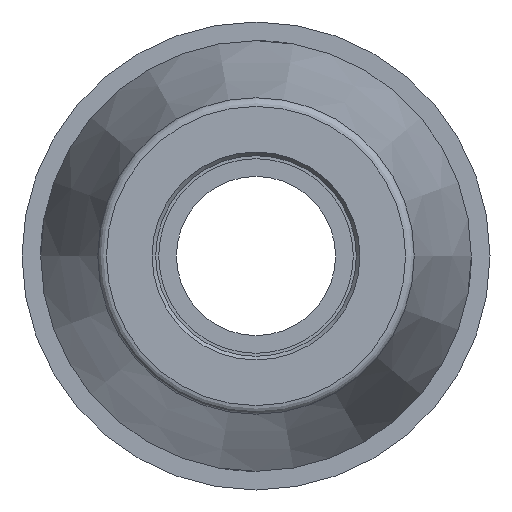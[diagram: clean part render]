
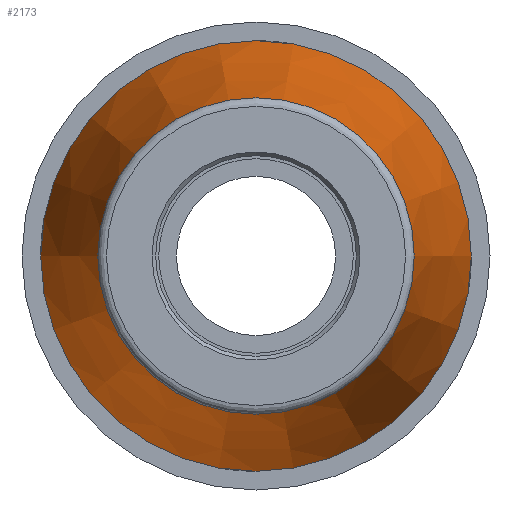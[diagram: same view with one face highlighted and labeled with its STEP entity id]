
A CAD part, left-side view. The second image highlights one B-rep face of the part: STEP entity #2173.
In plain terms, the highlighted conical face has half-angle 13 degrees and reference radius 26.227 mm.
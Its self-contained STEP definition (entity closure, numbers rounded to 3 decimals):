
#390=CONICAL_SURFACE('',#2402,26.227,13.);
#438=FACE_BOUND('',#687,.T.);
#550=FACE_OUTER_BOUND('',#686,.T.);
#686=EDGE_LOOP('',(#1808));
#687=EDGE_LOOP('',(#1809));
#828=CIRCLE('',#2401,22.319);
#829=CIRCLE('',#2403,30.36);
#1019=VERTEX_POINT('',#4301);
#1020=VERTEX_POINT('',#4304);
#1300=EDGE_CURVE('',#1019,#1019,#828,.T.);
#1301=EDGE_CURVE('',#1020,#1020,#829,.T.);
#1808=ORIENTED_EDGE('',*,*,#1301,.F.);
#1809=ORIENTED_EDGE('',*,*,#1300,.F.);
#2173=ADVANCED_FACE('',(#550,#438),#390,.T.);
#2401=AXIS2_PLACEMENT_3D('',#4302,#2945,#2946);
#2402=AXIS2_PLACEMENT_3D('',#4303,#2947,#2948);
#2403=AXIS2_PLACEMENT_3D('',#4305,#2949,#2950);
#2945=DIRECTION('center_axis',(-1.,0.,0.));
#2946=DIRECTION('ref_axis',(0.,-1.,0.));
#2947=DIRECTION('center_axis',(1.,0.,0.));
#2948=DIRECTION('ref_axis',(0.,1.,0.));
#2949=DIRECTION('center_axis',(1.,0.,0.));
#2950=DIRECTION('ref_axis',(0.,0.,-1.));
#4301=CARTESIAN_POINT('',(-70.031,22.319,0.));
#4302=CARTESIAN_POINT('Origin',(-70.031,0.,0.));
#4303=CARTESIAN_POINT('Origin',(-53.1,0.,0.));
#4304=CARTESIAN_POINT('',(-35.2,30.36,0.));
#4305=CARTESIAN_POINT('Origin',(-35.2,0.,0.));
